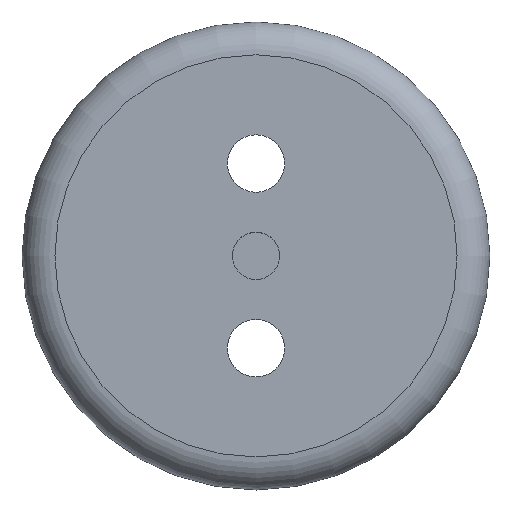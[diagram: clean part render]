
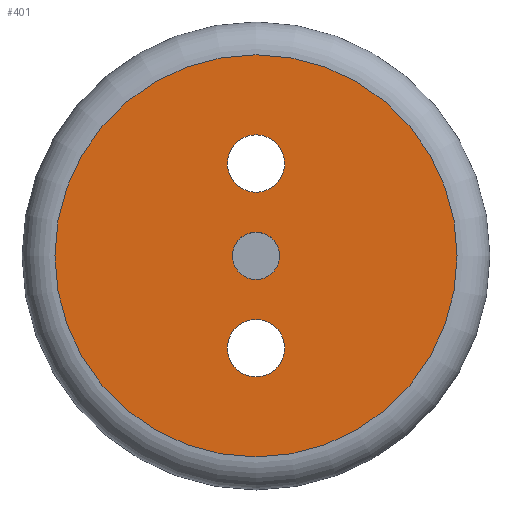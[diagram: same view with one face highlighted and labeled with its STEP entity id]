
A CAD part, top view. The second image highlights one B-rep face of the part: STEP entity #401.
In plain terms, the highlighted planar face has unit normal (0, 0, 1).
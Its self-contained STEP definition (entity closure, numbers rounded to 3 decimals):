
#157 = CYLINDRICAL_SURFACE('',#158,7.);
#158 = AXIS2_PLACEMENT_3D('',#159,#160,#161);
#159 = CARTESIAN_POINT('',(0.,-22.5,1.));
#160 = DIRECTION('',(0.,0.,-1.));
#161 = DIRECTION('',(-1.,0.,-0.));
#191 = CYLINDRICAL_SURFACE('',#192,7.);
#192 = AXIS2_PLACEMENT_3D('',#193,#194,#195);
#193 = CARTESIAN_POINT('',(0.,22.5,1.));
#194 = DIRECTION('',(0.,0.,-1.));
#195 = DIRECTION('',(-1.,0.,-0.));
#267 = VERTEX_POINT('',#268);
#268 = CARTESIAN_POINT('',(-7.,-22.5,0.));
#289 = EDGE_CURVE('',#267,#267,#290,.T.);
#290 = SURFACE_CURVE('',#291,(#296,#303),.PCURVE_S1.);
#291 = CIRCLE('',#292,7.);
#292 = AXIS2_PLACEMENT_3D('',#293,#294,#295);
#293 = CARTESIAN_POINT('',(0.,-22.5,0.));
#294 = DIRECTION('',(0.,0.,-1.));
#295 = DIRECTION('',(-1.,0.,-0.));
#296 = PCURVE('',#157,#297);
#297 = DEFINITIONAL_REPRESENTATION('',(#298),#302);
#298 = LINE('',#299,#300);
#299 = CARTESIAN_POINT('',(0.,1.));
#300 = VECTOR('',#301,1.);
#301 = DIRECTION('',(1.,0.));
#302 = ( GEOMETRIC_REPRESENTATION_CONTEXT(2) 
PARAMETRIC_REPRESENTATION_CONTEXT() REPRESENTATION_CONTEXT('2D SPACE',''
  ) );
#303 = PCURVE('',#304,#309);
#304 = PLANE('',#305);
#305 = AXIS2_PLACEMENT_3D('',#306,#307,#308);
#306 = CARTESIAN_POINT('',(0.,0.,0.));
#307 = DIRECTION('',(0.,0.,-1.));
#308 = DIRECTION('',(-1.,0.,-0.));
#309 = DEFINITIONAL_REPRESENTATION('',(#310),#314);
#310 = CIRCLE('',#311,7.);
#311 = AXIS2_PLACEMENT_2D('',#312,#313);
#312 = CARTESIAN_POINT('',(0.,-22.5));
#313 = DIRECTION('',(1.,0.));
#314 = ( GEOMETRIC_REPRESENTATION_CONTEXT(2) 
PARAMETRIC_REPRESENTATION_CONTEXT() REPRESENTATION_CONTEXT('2D SPACE',''
  ) );
#322 = VERTEX_POINT('',#323);
#323 = CARTESIAN_POINT('',(-7.,22.5,0.));
#344 = EDGE_CURVE('',#322,#322,#345,.T.);
#345 = SURFACE_CURVE('',#346,(#351,#358),.PCURVE_S1.);
#346 = CIRCLE('',#347,7.);
#347 = AXIS2_PLACEMENT_3D('',#348,#349,#350);
#348 = CARTESIAN_POINT('',(0.,22.5,0.));
#349 = DIRECTION('',(0.,0.,-1.));
#350 = DIRECTION('',(-1.,0.,-0.));
#351 = PCURVE('',#191,#352);
#352 = DEFINITIONAL_REPRESENTATION('',(#353),#357);
#353 = LINE('',#354,#355);
#354 = CARTESIAN_POINT('',(0.,1.));
#355 = VECTOR('',#356,1.);
#356 = DIRECTION('',(1.,0.));
#357 = ( GEOMETRIC_REPRESENTATION_CONTEXT(2) 
PARAMETRIC_REPRESENTATION_CONTEXT() REPRESENTATION_CONTEXT('2D SPACE',''
  ) );
#358 = PCURVE('',#304,#359);
#359 = DEFINITIONAL_REPRESENTATION('',(#360),#364);
#360 = CIRCLE('',#361,7.);
#361 = AXIS2_PLACEMENT_2D('',#362,#363);
#362 = CARTESIAN_POINT('',(0.,22.5));
#363 = DIRECTION('',(1.,0.));
#364 = ( GEOMETRIC_REPRESENTATION_CONTEXT(2) 
PARAMETRIC_REPRESENTATION_CONTEXT() REPRESENTATION_CONTEXT('2D SPACE',''
  ) );
#401 = ADVANCED_FACE('',(#402,#433,#436,#467),#304,.F.);
#402 = FACE_BOUND('',#403,.F.);
#403 = EDGE_LOOP('',(#404));
#404 = ORIENTED_EDGE('',*,*,#405,.T.);
#405 = EDGE_CURVE('',#406,#406,#408,.T.);
#406 = VERTEX_POINT('',#407);
#407 = CARTESIAN_POINT('',(-49.,0.,0.));
#408 = SURFACE_CURVE('',#409,(#414,#421),.PCURVE_S1.);
#409 = CIRCLE('',#410,49.);
#410 = AXIS2_PLACEMENT_3D('',#411,#412,#413);
#411 = CARTESIAN_POINT('',(0.,0.,0.));
#412 = DIRECTION('',(0.,0.,-1.));
#413 = DIRECTION('',(-1.,0.,0.));
#414 = PCURVE('',#304,#415);
#415 = DEFINITIONAL_REPRESENTATION('',(#416),#420);
#416 = CIRCLE('',#417,49.);
#417 = AXIS2_PLACEMENT_2D('',#418,#419);
#418 = CARTESIAN_POINT('',(0.,0.));
#419 = DIRECTION('',(1.,0.));
#420 = ( GEOMETRIC_REPRESENTATION_CONTEXT(2) 
PARAMETRIC_REPRESENTATION_CONTEXT() REPRESENTATION_CONTEXT('2D SPACE',''
  ) );
#421 = PCURVE('',#422,#427);
#422 = TOROIDAL_SURFACE('',#423,49.,8.);
#423 = AXIS2_PLACEMENT_3D('',#424,#425,#426);
#424 = CARTESIAN_POINT('',(0.,0.,-8.));
#425 = DIRECTION('',(-0.,-0.,1.));
#426 = DIRECTION('',(-1.,0.,0.));
#427 = DEFINITIONAL_REPRESENTATION('',(#428),#432);
#428 = LINE('',#429,#430);
#429 = CARTESIAN_POINT('',(-0.,1.571));
#430 = VECTOR('',#431,1.);
#431 = DIRECTION('',(-1.,0.));
#432 = ( GEOMETRIC_REPRESENTATION_CONTEXT(2) 
PARAMETRIC_REPRESENTATION_CONTEXT() REPRESENTATION_CONTEXT('2D SPACE',''
  ) );
#433 = FACE_BOUND('',#434,.F.);
#434 = EDGE_LOOP('',(#435));
#435 = ORIENTED_EDGE('',*,*,#289,.F.);
#436 = FACE_BOUND('',#437,.F.);
#437 = EDGE_LOOP('',(#438));
#438 = ORIENTED_EDGE('',*,*,#439,.F.);
#439 = EDGE_CURVE('',#440,#440,#442,.T.);
#440 = VERTEX_POINT('',#441);
#441 = CARTESIAN_POINT('',(-5.75,0.,0.));
#442 = SURFACE_CURVE('',#443,(#448,#455),.PCURVE_S1.);
#443 = CIRCLE('',#444,5.75);
#444 = AXIS2_PLACEMENT_3D('',#445,#446,#447);
#445 = CARTESIAN_POINT('',(0.,0.,0.));
#446 = DIRECTION('',(0.,0.,-1.));
#447 = DIRECTION('',(-1.,0.,-0.));
#448 = PCURVE('',#304,#449);
#449 = DEFINITIONAL_REPRESENTATION('',(#450),#454);
#450 = CIRCLE('',#451,5.75);
#451 = AXIS2_PLACEMENT_2D('',#452,#453);
#452 = CARTESIAN_POINT('',(0.,0.));
#453 = DIRECTION('',(1.,0.));
#454 = ( GEOMETRIC_REPRESENTATION_CONTEXT(2) 
PARAMETRIC_REPRESENTATION_CONTEXT() REPRESENTATION_CONTEXT('2D SPACE',''
  ) );
#455 = PCURVE('',#456,#461);
#456 = CYLINDRICAL_SURFACE('',#457,5.75);
#457 = AXIS2_PLACEMENT_3D('',#458,#459,#460);
#458 = CARTESIAN_POINT('',(0.,0.,1.));
#459 = DIRECTION('',(0.,0.,-1.));
#460 = DIRECTION('',(-1.,0.,-0.));
#461 = DEFINITIONAL_REPRESENTATION('',(#462),#466);
#462 = LINE('',#463,#464);
#463 = CARTESIAN_POINT('',(0.,1.));
#464 = VECTOR('',#465,1.);
#465 = DIRECTION('',(1.,0.));
#466 = ( GEOMETRIC_REPRESENTATION_CONTEXT(2) 
PARAMETRIC_REPRESENTATION_CONTEXT() REPRESENTATION_CONTEXT('2D SPACE',''
  ) );
#467 = FACE_BOUND('',#468,.F.);
#468 = EDGE_LOOP('',(#469));
#469 = ORIENTED_EDGE('',*,*,#344,.F.);
